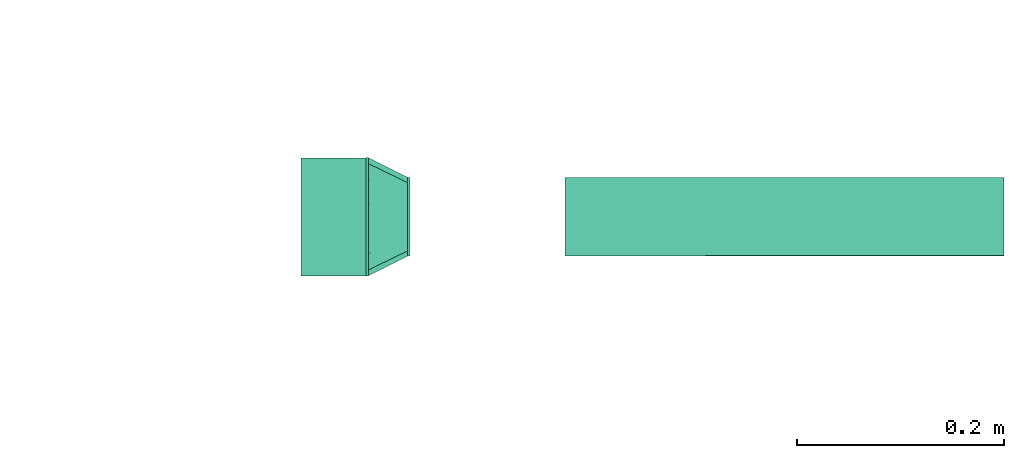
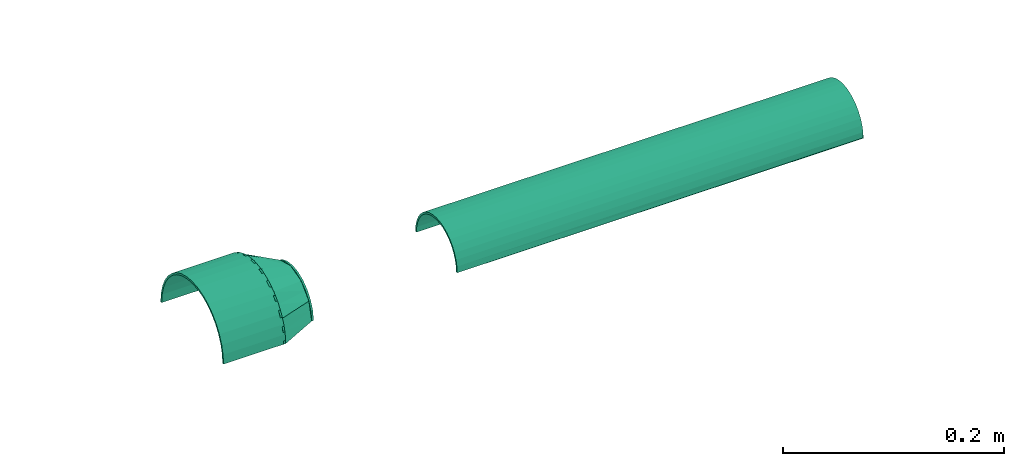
# One storey, part 59 of 63: 2 flow segments, 1 flow fitting.
"""IFC2X3 building model written with IfcOpenShell, lengths in millimetres."""

from ifc_helpers import new_model, entity, si_unit, converted_unit, derived_unit, direction, frame, place, context, subcontext, project, spatial, faceted_brep, type_object, element, save


model = new_model("IFC2X3")

# Units and contexts
model_context = context("Model", 3, precision=0.01, world=frame((0.0, 4.29681676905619e-09, 0.0)), true_north=direction((4.01073788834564e-13, 1.0)))
plan_context = context("Plan", 3, precision=0.01, world=frame((0.0, 4.29681676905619e-09, 0.0)), true_north=direction((4.01073788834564e-13, 1.0)))
body_context = subcontext(model_context, "Body", "Model", "MODEL_VIEW")
ifc_project = project(units=[converted_unit("PLANEANGLEUNIT", "DEGREE", entity("IfcPositiveLengthMeasure", 0.0174532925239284), si_unit("PLANEANGLEUNIT", "RADIAN"), dimensions=[0, 0, 0, 0, 0, 0, 0]), si_unit("AREAUNIT", "SQUARE_METRE"), si_unit("LENGTHUNIT", "METRE", prefix="MILLI"), si_unit("MASSUNIT", "GRAM", prefix="KILO"), si_unit("POWERUNIT", "WATT"), si_unit("PRESSUREUNIT", "PASCAL", prefix="KILO"), si_unit("FORCEUNIT", "NEWTON", prefix="KILO"), si_unit("ELECTRICVOLTAGEUNIT", "VOLT"), si_unit("ELECTRICCURRENTUNIT", "AMPERE"), si_unit("THERMODYNAMICTEMPERATUREUNIT", "DEGREE_CELSIUS"), si_unit("TIMEUNIT", "SECOND"), si_unit("VOLUMEUNIT", "CUBIC_METRE"), derived_unit("LINEARVELOCITYUNIT", [(si_unit("LENGTHUNIT", "METRE"), 1), (si_unit("TIMEUNIT", "SECOND"), -1)]), derived_unit("VOLUMETRICFLOWRATEUNIT", [(si_unit("VOLUMEUNIT", "CUBIC_METRE"), 1), (si_unit("TIMEUNIT", "SECOND"), -1)]), derived_unit("THERMALTRANSMITTANCEUNIT", [(si_unit("POWERUNIT", "WATT"), 1), (si_unit("THERMODYNAMICTEMPERATUREUNIT", "KELVIN"), -1), (si_unit("AREAUNIT", "SQUARE_METRE"), -1)]), derived_unit("SOUNDPRESSUREUNIT", [(si_unit("PRESSUREUNIT", "PASCAL"), 1)])], contexts=[model_context, plan_context])

# Site, building, storey
site_placement = place(None, frame((0.0, -4.29681676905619e-09, 0.0), z_axis=(0.0, 0.0, 1.0), x_axis=(1.0, 0.0, 0.0)))
site = spatial("IfcSite", under=ifc_project, at=site_placement, CompositionType="ELEMENT")
building_placement = place(site_placement, frame((0.0, 4.29681676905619e-09, 0.0), z_axis=(0.0, 0.0, 1.0), x_axis=(1.0, 0.0, 0.0)))
building = spatial("IfcBuilding", under=site, at=building_placement, Name="mc-building", CompositionType="ELEMENT")
storey_placement = place(building_placement, frame((0.0, 0.0, 207370.0), z_axis=(0.0, 0.0, 1.0), x_axis=(1.0, 0.0, 0.0)))
storey = spatial("IfcBuildingStorey", under=building, at=storey_placement, Name="Nivå E", CompositionType="ELEMENT", Elevation=207370.0)

# Flow fitting
pipe_fitting_type = type_object("IfcPipeFittingType", Name="magi_pipe_fe_reducer_centric_short_NOR", PredefinedType="TRANSITION")
flow_fitting_placement = place(storey_placement, frame((728565.09045, 442455.89716, 2530.0), z_axis=(0.0, 0.0, 1.0), x_axis=(-1.0, 0.0, 0.0)))
element("IfcFlowFitting", 1, at=flow_fitting_placement, inside=storey, type_object=pipe_fitting_type, Name="magi_pipe_fe_reducer_centric_short_NOR", context=body_context, shape_type="Brep", body=[
    faceted_brep([(-2.0, 26.94076, 8.88178419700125e-16), (-2.0, 29.2351524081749, -8.88178419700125e-16), (-2.0, 0.0, 38.1), (-2.0, -9.86101, 36.80177), (-2.0, 0.0, 0.0), (-2.0, -36.80177, 9.86101), (-2.0, -36.80177, 0.0), (-2.0, -38.1, 0.0), (-2.0, -26.94077, 26.94077), (-2.0, -32.99557, 19.05), (-2.0, -19.05, 32.99557), (-2.0, 38.1, 0.0), (-2.0, 9.86101, 36.80177), (-2.0, 32.99557, 19.05), (-2.0, 36.80177, 9.86101), (-2.0, 26.94077, 26.94077), (-2.0, 19.05, 32.99557), (0.0, 38.1, 0.0), (0.0, -36.80177, 0.0), (0.0, -36.80177, 9.86101), (0.0, 9.86101, 36.80177), (0.0, 32.99557, 19.05), (0.0, 26.94077, 26.94077), (0.0, 19.05, 32.99557), (0.0, 36.80177, 9.86101), (0.0, 0.0, 38.1), (0.0, -26.94077, 26.94077), (0.0, -9.86101, 36.80177), (0.0, -19.05, 32.99557), (0.0, -32.99557, 19.05), (0.0, -38.1, 0.0), (40.2, 0.0, 0.0), (40.2, -55.25096, 0.0), (40.2, -55.25096, 14.80445), (40.2, 57.2, 0.0), (40.2, -14.80445, 55.25096), (40.2, 40.44651, 40.44651), (40.2, 14.80445, 55.25096), (40.2, 28.6, 49.53665), (40.2, 0.0, 57.2), (40.2, 55.25096, 14.80445), (40.2, 49.53665, 28.6), (40.2, -40.44651, 40.44651), (40.2, -28.6, 49.53665), (40.2, -49.53665, 28.6), (40.2, -57.2, 0.0), (38.2, -14.80445, 55.25096), (38.2, 14.80445, 55.25096), (38.2, 0.0, 57.2), (38.2, -55.25096, 14.80445), (38.2, 40.44651, 40.44651), (38.2, 57.2, 0.0), (38.2, -55.25096, 0.0), (38.2, -57.2, 0.0), (38.2, 55.25096, 14.80445), (38.2, 49.53665, 28.6), (38.2, 28.6, 49.53665), (38.2, -40.44651, 40.44651), (38.2, -49.53665, 28.6), (38.2, -28.6, 49.53665), (38.2, 51.53542, 0.0), (38.2, 45.870840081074, 0.0), (38.2, 35.66362, 44.72076), (38.2, 51.53542, 24.81815), (38.2, 39.5836299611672, 0.0), (38.2, 12.7282, 55.76588), (38.2, -12.7282, 55.76588), (38.2, -35.66362, 44.72076), (38.2, -51.53542, 24.81815), (0.0, -27.8911373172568, -1.77635683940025e-15), (0.0, -32.99557, 0.0), (38.2, 54.36771, 12.40908), (0.0, 35.54778, 9.525), (38.2, 43.59952, 34.76946), (0.0, 26.02278, 26.02278), (38.2, 24.19591, 50.24332), (0.0, 9.525, 35.54778), (38.2, 0.0, 55.76588), (0.0, -9.525, 35.54778), (38.2, -24.19591, 50.24332), (0.0, -26.02278, 26.02278), (38.2, -43.59952, 34.76946), (0.0, -35.54778, 9.525), (38.2, -54.36771, 12.40908)], [[[0, 1, 2, 3]], [[4, 0, 3, 5]], [[6, 4, 5]], [[7, 6, 5]], [[8, 5, 3]], [[8, 9, 5]], [[8, 3, 10]], [[1, 11, 2]], [[12, 2, 11]], [[11, 13, 12]], [[13, 11, 14]], [[15, 12, 13]], [[12, 15, 16]], [[17, 18, 19]], [[17, 19, 20]], [[21, 17, 20]], [[20, 22, 21]], [[22, 20, 23]], [[17, 21, 24]], [[19, 25, 20]], [[19, 26, 25]], [[27, 25, 26]], [[27, 26, 28]], [[19, 29, 26]], [[18, 30, 19]], [[11, 17, 14]], [[17, 24, 14]], [[24, 13, 14]], [[21, 13, 24]], [[21, 15, 13]], [[21, 22, 15]], [[16, 15, 22]], [[16, 22, 23]], [[16, 23, 12]], [[23, 20, 12]], [[12, 20, 2]], [[2, 20, 25]], [[3, 2, 25]], [[25, 27, 3]], [[27, 10, 3]], [[27, 28, 10]], [[28, 8, 10]], [[26, 8, 28]], [[9, 8, 26]], [[26, 29, 9]], [[9, 29, 5]], [[5, 29, 19]], [[5, 19, 7]], [[19, 30, 7]], [[31, 32, 33]], [[34, 31, 33]], [[33, 35, 34]], [[36, 34, 35]], [[35, 37, 36]], [[36, 37, 38]], [[37, 35, 39]], [[36, 40, 34]], [[40, 36, 41]], [[33, 42, 35]], [[35, 42, 43]], [[33, 44, 42]], [[32, 45, 33]], [[46, 47, 48]], [[47, 46, 49]], [[47, 49, 50]], [[49, 51, 50]], [[52, 51, 49]], [[53, 52, 49]], [[54, 50, 51]], [[50, 54, 55]], [[47, 50, 56]], [[57, 49, 46]], [[57, 58, 49]], [[57, 46, 59]], [[51, 34, 54]], [[34, 40, 54]], [[40, 55, 54]], [[41, 55, 40]], [[41, 50, 55]], [[41, 36, 50]], [[56, 50, 36]], [[56, 36, 38]], [[56, 38, 47]], [[38, 37, 47]], [[47, 37, 48]], [[48, 37, 39]], [[46, 48, 39]], [[39, 35, 46]], [[35, 59, 46]], [[35, 43, 59]], [[43, 57, 59]], [[42, 57, 43]], [[58, 57, 42]], [[42, 44, 58]], [[58, 44, 49]], [[49, 44, 33]], [[49, 33, 53]], [[33, 45, 53]], [[60, 61, 62, 63]], [[51, 60, 63]], [[61, 64, 65, 62]], [[64, 53, 65]], [[66, 65, 53]], [[67, 66, 53]], [[53, 68, 67]], [[28, 17, 25]], [[69, 17, 28]], [[70, 69, 28, 29]], [[30, 70, 29]], [[25, 17, 23]], [[21, 23, 17]], [[71, 17, 51]], [[17, 71, 72]], [[71, 63, 72]], [[63, 21, 72]], [[73, 21, 63]], [[21, 73, 74]], [[73, 62, 74]], [[62, 23, 74]], [[23, 62, 75]], [[76, 23, 75]], [[65, 76, 75]], [[65, 25, 76]], [[25, 65, 77]], [[25, 77, 66]], [[78, 25, 66]], [[79, 78, 66]], [[78, 79, 28]], [[79, 67, 28]], [[80, 28, 67]], [[80, 67, 81]], [[29, 80, 81]], [[81, 68, 29]], [[29, 68, 82]], [[82, 68, 83]], [[30, 82, 83]], [[30, 83, 53]], [[4, 6, 7, 30, 18, 17, 11, 1, 0]], [[34, 51, 52, 53, 45, 32, 31]], [[51, 17, 69, 70, 30, 53, 64, 61, 60]]], orient=[[False], [False], [False], [False], [False], [False], [False], [False], [False], [False], [False], [False], [False], [False], [False], [False], [False], [False], [False], [False], [False], [False], [False], [False], [False], [False], [False], [False], [False], [False], [False], [False], [False], [False], [False], [False], [False], [False], [False], [False], [False], [False], [False], [False], [False], [False], [False], [False], [False], [False], [False], [False], [False], [False], [False], [False], [False], [False], [False], [False], [False], [False], [False], [False], [False], [False], [False], [False], [False], [False], [False], [False], [False], [False], [False], [False], [False], [False], [False], [False], [False], [False], [False], [False], [False], [False], [False], [False], [False], [False], [False], [False], [False], [False], [False], [False], [False], [False], [False], [False], [False], [False], [False], [False], [False], [False], [False], [False], [False], [False], [False], [False], [False], [False], [False], [False], [False], [False], [False], [False], [False], [False], [False], [False], [False], [False], [False], [False], [False], [False], [False], [False], [False], [False], [False], [False], [False], [False], [False], [False]]),
])

# Flow segments
pipe_segment_type = type_object("IfcPipeSegmentType", Name="Stålrør normaltykke", PredefinedType="RIGIDSEGMENT")
flow_segment_1_placement = place(storey_placement, frame((737565.09045, 442455.89716, 2530.0), z_axis=(0.0, 0.0, 1.0), x_axis=(-1.0, 0.0, 0.0)))
element("IfcFlowSegment", 2, at=flow_segment_1_placement, inside=storey, type_object=pipe_segment_type, Name="Stålrør normaltykke", context=body_context, shape_type="Brep", body=[
    faceted_brep([(8422.50066353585, -35.4530791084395, 6.25133439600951), (8422.50066353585, -35.9999999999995, 0.0), (8847.6, -36.0, 4.40872847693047e-15), (8847.6, -35.4530791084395, 6.25133439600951), (8422.50066353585, -33.8289343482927, 12.3127251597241), (8847.6, -33.8289343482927, 12.3127251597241), (8422.50066353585, -31.1769145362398, 18.0), (8847.6, -31.1769145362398, 18.0), (8422.50066353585, -27.5775999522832, 23.1403539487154), (8847.6, -27.5775999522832, 23.1403539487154), (8422.50066353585, -23.1403539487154, 27.5775999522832), (8847.6, -23.1403539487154, 27.5775999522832), (8422.50066353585, -18.0, 31.1769145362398), (8847.6, -18.0, 31.1769145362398), (8422.50066353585, -12.3127251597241, 33.8289343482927), (8847.6, -12.3127251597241, 33.8289343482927), (8422.50066353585, -6.25133439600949, 35.4530791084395), (8847.6, -6.25133439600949, 35.4530791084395), (8422.50066353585, 2.20436423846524e-15, 36.0), (8847.6, 2.20436423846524e-15, 36.0), (8422.50066353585, 6.2513343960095, 35.4530791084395), (8847.6, 6.2513343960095, 35.4530791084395), (8422.50066353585, 12.3127251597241, 33.8289343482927), (8847.6, 12.3127251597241, 33.8289343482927), (8422.50066353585, 18.0, 31.1769145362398), (8847.6, 18.0, 31.1769145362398), (8422.50066353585, 23.1403539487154, 27.5775999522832), (8847.6, 23.1403539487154, 27.5775999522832), (8422.50066353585, 27.5775999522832, 23.1403539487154), (8847.6, 27.5775999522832, 23.1403539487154), (8422.50066353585, 31.1769145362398, 18.0), (8847.6, 31.1769145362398, 18.0), (8422.50066353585, 33.8289343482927, 12.3127251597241), (8847.6, 33.8289343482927, 12.3127251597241), (8422.50066353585, 35.4530791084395, 6.25133439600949), (8847.6, 35.4530791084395, 6.25133439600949), (8422.50066353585, 37.1281191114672, 0.0), (8847.6, 36.0, 0.0), (8422.50066353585, 37.4226946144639, 6.59863075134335), (8847.6, 38.0, 0.0), (8847.6, 37.4226946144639, 6.59863075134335), (8422.50066353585, 35.7083195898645, 12.9967654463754), (8847.6, 35.7083195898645, 12.9967654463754), (8422.50066353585, 32.9089653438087, 19.0), (8847.6, 32.9089653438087, 19.0), (8422.50066353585, 29.1096888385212, 24.4259291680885), (8847.6, 29.1096888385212, 24.4259291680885), (8422.50066353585, 24.4259291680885, 29.1096888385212), (8847.6, 24.4259291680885, 29.1096888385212), (8422.50066353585, 19.0, 32.9089653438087), (8847.6, 19.0, 32.9089653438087), (8422.50066353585, 12.9967654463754, 35.7083195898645), (8847.6, 12.9967654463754, 35.7083195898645), (8422.50066353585, 6.59863075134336, 37.4226946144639), (8847.6, 6.59863075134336, 37.4226946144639), (8422.50066353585, 2.32682891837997e-15, 38.0), (8847.6, 2.32682891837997e-15, 38.0), (8422.50066353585, -6.59863075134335, 37.4226946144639), (8847.6, -6.59863075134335, 37.4226946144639), (8422.50066353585, -12.9967654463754, 35.7083195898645), (8847.6, -12.9967654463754, 35.7083195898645), (8422.50066353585, -19.0, 32.9089653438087), (8847.6, -19.0, 32.9089653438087), (8422.50066353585, -24.4259291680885, 29.1096888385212), (8847.6, -24.4259291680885, 29.1096888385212), (8422.50066353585, -29.1096888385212, 24.4259291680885), (8847.6, -29.1096888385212, 24.4259291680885), (8422.50066353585, -32.9089653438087, 19.0), (8847.6, -32.9089653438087, 19.0), (8422.50066353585, -35.7083195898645, 12.9967654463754), (8847.6, -35.7083195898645, 12.9967654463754), (8422.50066353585, -37.4226946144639, 6.59863075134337), (8847.6, -37.4226946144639, 6.59863075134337), (8422.50066353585, -38.0000000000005, 0.0), (8847.6, -38.0, 4.65365783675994e-15), (8422.50066353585, 38.0, 0.0), (8422.50066353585, 36.0, 0.0)], [[[0, 1, 2, 3]], [[4, 0, 3, 5]], [[6, 4, 5, 7]], [[8, 6, 7, 9]], [[10, 8, 9, 11]], [[12, 10, 11, 13]], [[14, 12, 13, 15]], [[16, 14, 15, 17]], [[18, 16, 17, 19]], [[20, 18, 19, 21]], [[22, 20, 21, 23]], [[24, 22, 23, 25]], [[26, 24, 25, 27]], [[28, 26, 27, 29]], [[30, 28, 29, 31]], [[32, 30, 31, 33]], [[34, 32, 33, 35]], [[36, 34, 35, 37]], [[38, 36, 39, 40]], [[41, 38, 40, 42]], [[43, 41, 42, 44]], [[45, 43, 44, 46]], [[47, 45, 46, 48]], [[49, 47, 48, 50]], [[51, 49, 50, 52]], [[53, 51, 52, 54]], [[55, 53, 54, 56]], [[57, 55, 56, 58]], [[59, 57, 58, 60]], [[61, 59, 60, 62]], [[63, 61, 62, 64]], [[65, 63, 64, 66]], [[67, 65, 66, 68]], [[69, 67, 68, 70]], [[71, 69, 70, 72]], [[73, 71, 72, 74]], [[39, 37, 35, 33, 31, 29, 27, 25, 23, 21, 19, 17, 15, 13, 11, 9, 7, 5, 3, 2, 74, 72, 70, 68, 66, 64, 62, 60, 58, 56, 54, 52, 50, 48, 46, 44, 42, 40]], [[75, 38, 41, 43, 45, 47, 49, 51, 53, 55, 57, 59, 61, 63, 65, 67, 69, 71, 73, 1, 0, 4, 6, 8, 10, 12, 14, 16, 18, 20, 22, 24, 26, 28, 30, 32, 34, 76]], [[73, 74, 2, 1]], [[76, 37, 39, 75]]], orient=[[False], [False], [False], [False], [False], [False], [False], [False], [False], [False], [False], [False], [False], [False], [False], [False], [False], [False], [False], [False], [False], [False], [False], [False], [False], [False], [False], [False], [False], [False], [False], [False], [False], [False], [False], [False], [False], [False], [False], [False]]),
])
flow_segment_2_placement = place(storey_placement, frame((728526.89045, 442455.89716, 2530.0), z_axis=(0.0, 0.0, 1.0), x_axis=(-1.0, 0.0, 0.0)))
element("IfcFlowSegment", 3, at=flow_segment_2_placement, inside=storey, type_object=pipe_segment_type, Name="Stålrør normaltykke", context=body_context, shape_type="Brep", body=[
    faceted_brep([(0.0, -55.1, 6.74780386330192e-15), (65.0, -55.1, 6.74780386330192e-15), (65.0, -54.2629071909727, 9.56801458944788), (0.0, -54.2629071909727, 9.56801458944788), (65.0, -51.7770634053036, 18.8453098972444), (0.0, -51.7770634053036, 18.8453098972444), (65.0, -47.7179997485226, 27.55), (0.0, -47.7179997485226, 27.55), (65.0, -42.2090488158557, 35.4175972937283), (0.0, -42.2090488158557, 35.4175972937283), (65.0, -35.4175972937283, 42.2090488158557), (0.0, -35.4175972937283, 42.2090488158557), (65.0, -27.55, 47.7179997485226), (0.0, -27.55, 47.7179997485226), (65.0, -18.8453098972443, 51.7770634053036), (0.0, -18.8453098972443, 51.7770634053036), (65.0, -9.56801458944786, 54.2629071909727), (0.0, -9.56801458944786, 54.2629071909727), (65.0, 3.37390193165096e-15, 55.1), (0.0, 3.37390193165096e-15, 55.1), (65.0, 9.56801458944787, 54.2629071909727), (0.0, 9.56801458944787, 54.2629071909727), (65.0, 18.8453098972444, 51.7770634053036), (0.0, 18.8453098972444, 51.7770634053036), (65.0, 27.55, 47.7179997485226), (0.0, 27.55, 47.7179997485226), (65.0, 35.4175972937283, 42.2090488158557), (0.0, 35.4175972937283, 42.2090488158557), (65.0, 42.2090488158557, 35.4175972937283), (0.0, 42.2090488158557, 35.4175972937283), (65.0, 47.7179997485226, 27.55), (0.0, 47.7179997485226, 27.55), (65.0, 51.7770634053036, 18.8453098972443), (0.0, 51.7770634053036, 18.8453098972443), (65.0, 54.2629071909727, 9.56801458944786), (0.0, 54.2629071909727, 9.56801458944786), (65.0, 55.1, 0.0), (0.0, 55.1, 0.0), (0.0, 57.1, 0.0), (65.0, 57.1, 0.0), (65.0, 56.2325226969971, 9.91531094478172), (0.0, 56.2325226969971, 9.91531094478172), (65.0, 53.6564486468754, 19.5293501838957), (0.0, 53.6564486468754, 19.5293501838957), (65.0, 49.4500505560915, 28.55), (0.0, 49.4500505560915, 28.55), (65.0, 43.7411377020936, 36.7031725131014), (0.0, 43.7411377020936, 36.7031725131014), (65.0, 36.7031725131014, 43.7411377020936), (0.0, 36.7031725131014, 43.7411377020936), (65.0, 28.55, 49.4500505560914), (0.0, 28.55, 49.4500505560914), (65.0, 19.5293501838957, 53.6564486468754), (0.0, 19.5293501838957, 53.6564486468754), (65.0, 9.91531094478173, 56.2325226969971), (0.0, 9.91531094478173, 56.2325226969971), (65.0, 3.49636661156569e-15, 57.1), (0.0, 3.49636661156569e-15, 57.1), (65.0, -9.91531094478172, 56.2325226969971), (0.0, -9.91531094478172, 56.2325226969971), (65.0, -19.5293501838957, 53.6564486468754), (0.0, -19.5293501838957, 53.6564486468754), (65.0, -28.55, 49.4500505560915), (0.0, -28.55, 49.4500505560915), (65.0, -36.7031725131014, 43.7411377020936), (0.0, -36.7031725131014, 43.7411377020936), (65.0, -43.7411377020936, 36.7031725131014), (0.0, -43.7411377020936, 36.7031725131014), (65.0, -49.4500505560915, 28.55), (0.0, -49.4500505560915, 28.55), (65.0, -53.6564486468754, 19.5293501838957), (0.0, -53.6564486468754, 19.5293501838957), (65.0, -56.2325226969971, 9.91531094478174), (0.0, -56.2325226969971, 9.91531094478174), (65.0, -57.1, 6.99273322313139e-15), (0.0, -57.1, 6.99273322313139e-15)], [[[0, 1, 2, 3]], [[3, 2, 4, 5]], [[5, 4, 6, 7]], [[7, 6, 8, 9]], [[9, 8, 10, 11]], [[11, 10, 12, 13]], [[13, 12, 14, 15]], [[15, 14, 16, 17]], [[17, 16, 18, 19]], [[19, 18, 20, 21]], [[21, 20, 22, 23]], [[23, 22, 24, 25]], [[25, 24, 26, 27]], [[27, 26, 28, 29]], [[29, 28, 30, 31]], [[31, 30, 32, 33]], [[33, 32, 34, 35]], [[35, 34, 36, 37]], [[38, 39, 40, 41]], [[41, 40, 42, 43]], [[43, 42, 44, 45]], [[45, 44, 46, 47]], [[47, 46, 48, 49]], [[49, 48, 50, 51]], [[51, 50, 52, 53]], [[53, 52, 54, 55]], [[55, 54, 56, 57]], [[57, 56, 58, 59]], [[59, 58, 60, 61]], [[61, 60, 62, 63]], [[63, 62, 64, 65]], [[65, 64, 66, 67]], [[67, 66, 68, 69]], [[69, 68, 70, 71]], [[71, 70, 72, 73]], [[73, 72, 74, 75]], [[75, 0, 3, 5, 7, 9, 11, 13, 15, 17, 19, 21, 23, 25, 27, 29, 31, 33, 35, 37, 38, 41, 43, 45, 47, 49, 51, 53, 55, 57, 59, 61, 63, 65, 67, 69, 71, 73]], [[39, 36, 34, 32, 30, 28, 26, 24, 22, 20, 18, 16, 14, 12, 10, 8, 6, 4, 2, 1, 74, 72, 70, 68, 66, 64, 62, 60, 58, 56, 54, 52, 50, 48, 46, 44, 42, 40]], [[75, 74, 1, 0]], [[39, 38, 37, 36]]], orient=[[False], [False], [False], [False], [False], [False], [False], [False], [False], [False], [False], [False], [False], [False], [False], [False], [False], [False], [False], [False], [False], [False], [False], [False], [False], [False], [False], [False], [False], [False], [False], [False], [False], [False], [False], [False], [False], [False], [False], [False]]),
])

save(model, "model.ifc")
